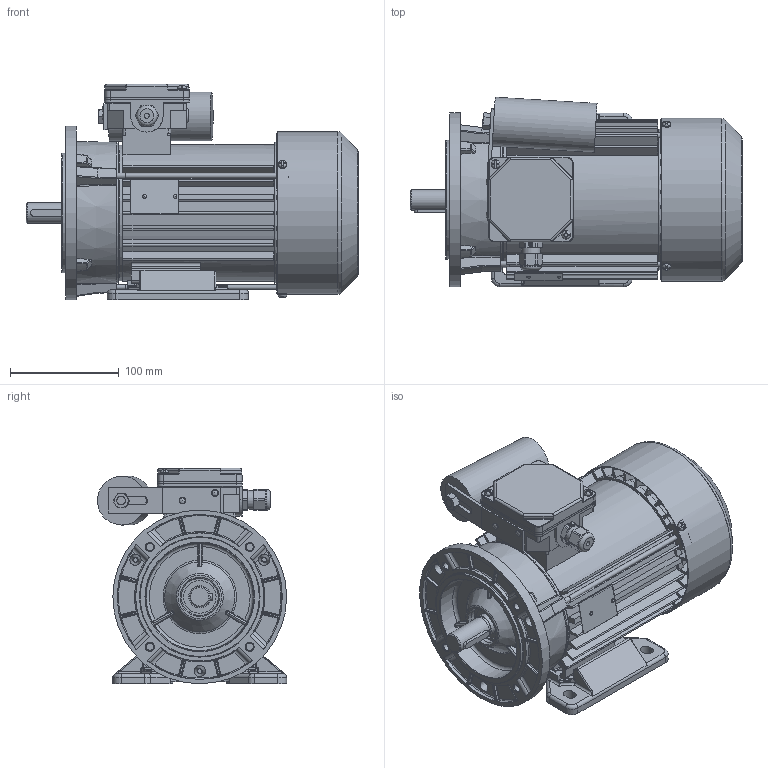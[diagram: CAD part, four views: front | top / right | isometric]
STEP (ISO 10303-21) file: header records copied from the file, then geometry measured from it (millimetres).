
FILE_DESCRIPTION(/* description */ ('Unknown'),/* implementation_level */ '2;1');
FILE_NAME(/* name */ '3SSIEL80-4B1',/* time_stamp */ '2024-06-18T11:00:48+02:00',/* author */ ('Unknown'),/* organization */ ('Unknown'),/* preprocessor_version */ 'ST-DEVELOPER v16.7',/* originating_system */ 'Solid Edge',/* authorisation */ 'Unknown');
FILE_SCHEMA (('CONFIG_CONTROL_DESIGN','AUTOMOTIVE_DESIGN { 1 0 10303 214 3 1 1 }','AUTOMOTIVE_DESIGN {1 0 10303 214 3 1 1}'));
Products named in the file (1): Czêœæ17
Bounding box: 305.79 x 174.3 x 198.5 mm (x, y, z)
Volume: 1307957.5 mm3; surface area: 614264.6 mm2
Topology: 4 solids, 4 shells, 3055 faces, 8414 edges, 5353 vertices
Faces by surface type: plane 1351, cylinder 940, bspline 406, torus 175, cone 155, sphere 28
Full cylindrical faces by diameter (mm): 2 x2, 2.4 x2, 3 x2, 3.7 x8, 4 x5, 4.2 x3, 4.3 x2, 4.5 x4, 4.6 x3, 4.8 x2, 5 x5, 5.5 x3, 6 x2, 6.5 x5, 6.8 x4, 8 x10, 14.38 x1, 16 x1, 17.2 x1, 18.376 x1, 18.598 x1, 18.998 x1, 19 x1, 19.298 x1, 19.498 x1, 19.898 x1, 19.948 x1, 19.998 x2, 20.4 x2, 25.497 x1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
Entity records: 121738 total; most frequent: CARTESIAN_POINT 28241, ORIENTED_EDGE 15920, DIRECTION 14494, EDGE_CURVE 7960, AXIS2_PLACEMENT_3D 5382, VERTEX_POINT 5206, LINE 3730, VECTOR 3730
